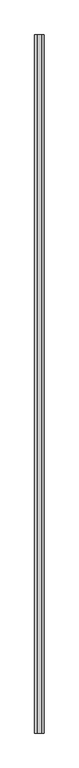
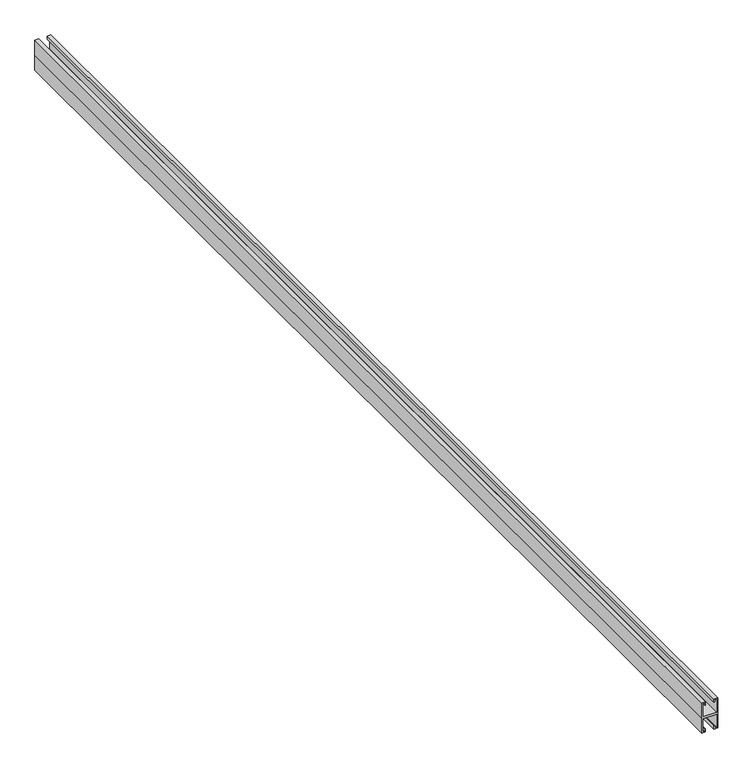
"""IFC4 building model written with IfcOpenShell, lengths in millimetres: proxy geometry, P41-D_Profile-Basorfix : Basorfix P41-D 41x82x2.5 D11 3M GC."""

from ifc_helpers import new_model, si_unit, frame, origin, place, context, project, spatial, polyline, outline, extrude, source, transform, mapped, element, save


def generic_models_8970f447(model_context):
    return source(origin(), model_context, "Body", "SweptSolid", [
        extrude(outline(polyline([(82.0, -20.5), (41.0, -20.5), (0.0, -20.5), (0.0, -11.0), (8.5, -11.0), (8.5, -13.5), (2.5, -13.5), (2.5, -18.0), (38.5, -18.0), (38.5, 18.0), (2.5, 18.0), (2.5, 13.5), (8.5, 13.5), (8.5, 11.0), (0.0, 11.0), (0.0, 20.5), (41.0, 20.5), (82.0, 20.5), (82.0, 11.0), (73.5, 11.0), (73.5, 13.5), (79.5, 13.5), (79.5, 18.0), (43.5, 18.0), (43.5, -18.0), (79.5, -18.0), (79.5, -13.5), (73.5, -13.5), (73.5, -11.0), (82.0, -11.0), (82.0, -20.5)])), frame((0.0, -1500.0, 0.0), z_axis=(0.0, 1.0, 0.0), x_axis=(0.0, 0.0, 1.0)), (0.0, 0.0, 1.0), 3000.0),
    ])


if __name__ == "__main__":
    model = new_model("IFC4")
    model_context = context("Model", 3, world=origin())
    ifc_project = project(units=[si_unit("LENGTHUNIT", "METRE", prefix="MILLI")], contexts=[model_context])
    site = spatial("IfcSite", under=ifc_project)
    building = spatial("IfcBuilding", under=site)
    placement = place(None, origin())
    generic_models_shape = generic_models_8970f447(model_context)
    element("IfcBuildingElementProxy", 1, Name="P41-D_Profile-Basorfix : Basorfix P41-D 41x82x2.5 D11 3M GC", ObjectType="P41-D_Profile-Basorfix : Basorfix P41-D 41x82x2.5 D11 3M GC", at=placement, inside=building, context=model_context, shape_type="MappedRepresentation", body=[
        mapped(generic_models_shape, transform((0.0, 0.0, 0.0), x_axis=(1.0, 0.0, 0.0), y_axis=(0.0, 1.0, 0.0), z_axis=(0.0, 0.0, 1.0))),
    ])
    save(model, "model.ifc")
